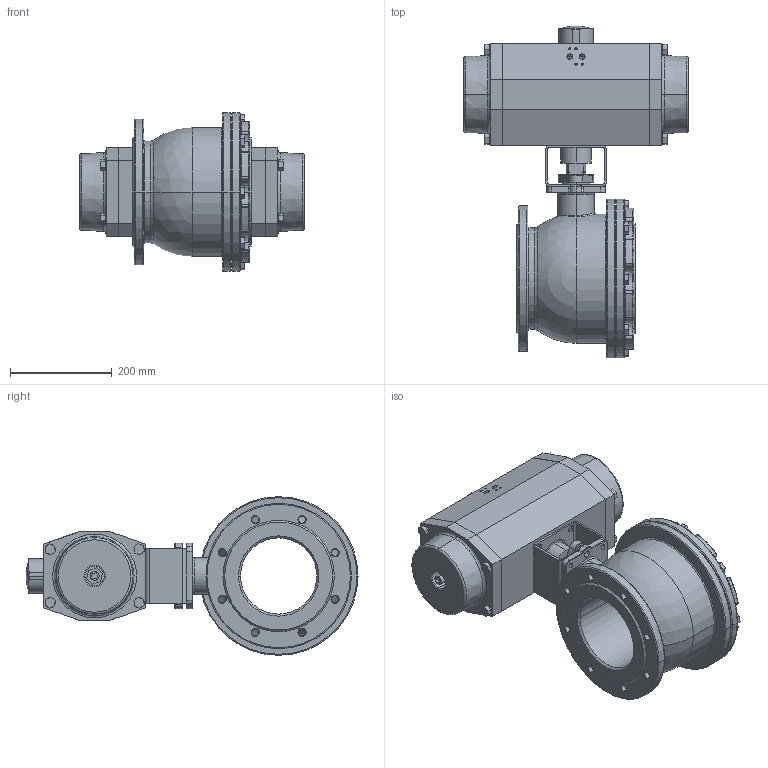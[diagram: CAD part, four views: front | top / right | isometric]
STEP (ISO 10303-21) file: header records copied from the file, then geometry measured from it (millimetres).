
FILE_DESCRIPTION (( 'STEP AP214' ), '1' );
FILE_NAME ('S15F DN150 + AP6.STEP', '2012-04-24T09:04:37', ( 'Jan' ), ( '' ), 'SwSTEP 2.0', 'SolidWorks 2011', '' );
FILE_SCHEMA (( 'AUTOMOTIVE_DESIGN' ));
Length unit declared in the file: millimetre
Products named in the file (5): AP6_Default<As Machined>; YB12080F12F12-4; S15F KK DN150 PN16; S15F DN150 + AP6; YA2726D6053K80
Assembly tree (4 placements, depth 2):
  S15F DN150 + AP6
    S15F KK DN150 PN16
    AP6_Default<As Machined>
    YA2726D6053K80
    YB12080F12F12-4
Bounding box: 442 x 652.9 x 312 mm (x, y, z)
Volume: 21364629.2 mm3; surface area: 1065134.6 mm2
Topology: 15 solids, 15 shells, 825 faces, 1975 edges, 1191 vertices
Faces by surface type: plane 319, cylinder 264, torus 143, cone 94, sphere 4, bspline 1
Entity records: 25850 total; most frequent: DIRECTION 4482, CARTESIAN_POINT 4254, ORIENTED_EDGE 3838, EDGE_CURVE 1919, AXIS2_PLACEMENT_3D 1735, VERTEX_POINT 1189, VECTOR 1012, LINE 1012
